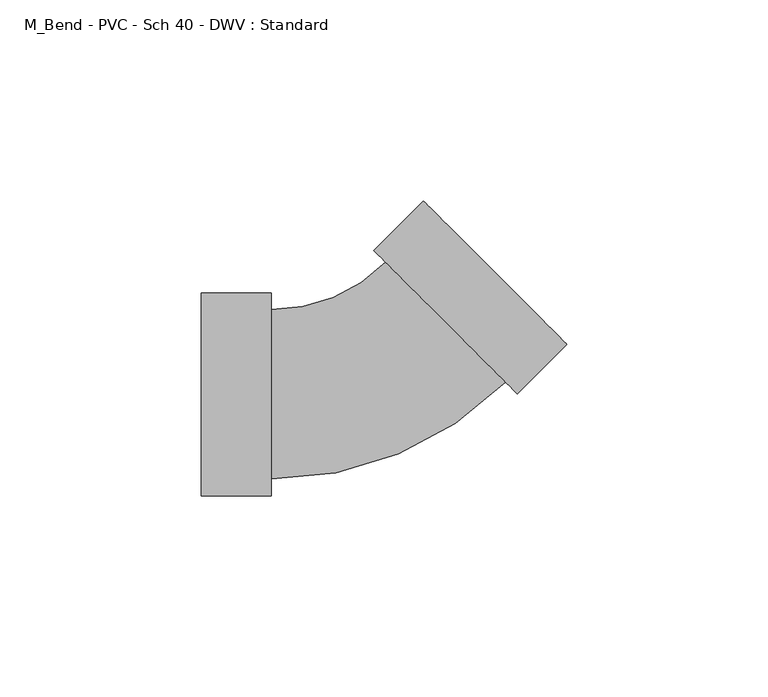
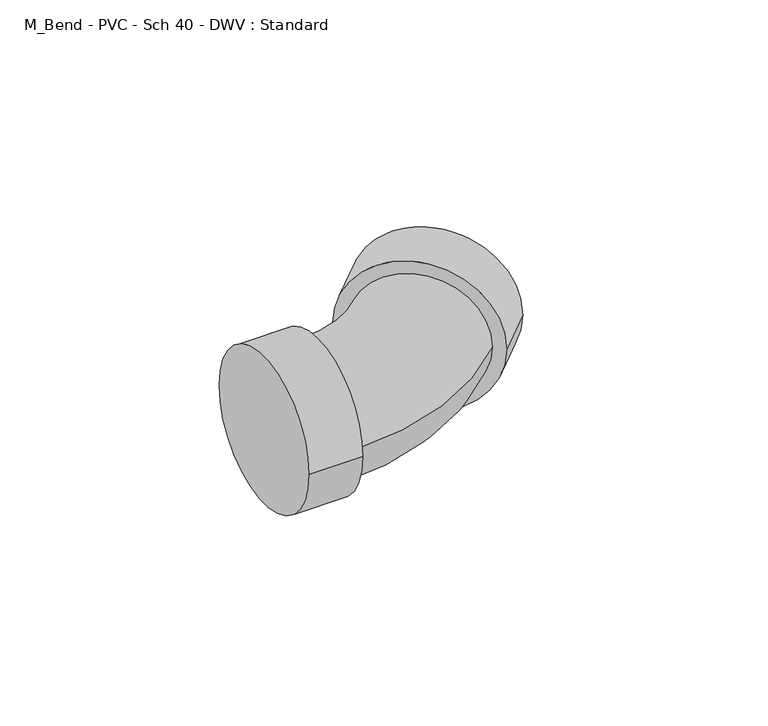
"""IFC4 building model written with IfcOpenShell, lengths in millimetres: pipe fitting geometry, M_Bend - PVC - Sch 40 - DWV : Standard."""

from ifc_helpers import new_model, si_unit, point, frame, origin, place, context, project, spatial, circle_curve, ellipse_curve, trimmed, source, transform, mapped, element, save
from ifc_brep_helpers import plane_surface, cylinder_surface, revolved_surface, advanced_brep


def m_bend_pvc_sch_40_dwv_standard_e3c94691(model_context):
    return source(origin(), model_context, "Body", "AdvancedBrep", [
        advanced_brep(
        [(-42.8498, -25.2349, 0.0), (-42.8498, 25.2349, 0.0), (-25.4, -25.2349, 0.0), (-25.4, 25.2349, 0.0), (-25.4, -21.082, 0.0), (-25.4, 21.082, 0.0), (3.0540594, 32.8676656, 0.0), (32.8678091, 3.0525147, 0.0), (35.8042839, 0.115902, 0.0), (0.1175847, 35.8042784, 0.0), (48.1434457, 12.4544839, 0.0), (12.4567465, 48.1428604, 0.0)],
        [
            (0, 1, circle_curve(frame((-42.8498, 0.0, 0.0), z_axis=(-1.0, 0.0, 0.0), x_axis=(0.0, 1.0, 0.0)), 25.2349)),
            (1, 0, circle_curve(frame((-42.8498, 0.0, 0.0), z_axis=(-1.0, 0.0, 0.0), x_axis=(0.0, 1.0, 0.0)), 25.2349)),
            (2, 3, circle_curve(frame((-25.4, 0.0, 0.0), z_axis=(1.0, 0.0, 0.0), x_axis=(0.0, 1.0, 0.0)), 25.2349)),
            (3, 2, circle_curve(frame((-25.4, 0.0, 0.0), z_axis=(1.0, 0.0, 0.0), x_axis=(0.0, 1.0, 0.0)), 25.2349)),
            (4, 5, circle_curve(frame((-25.4, 0.0, 0.0), z_axis=(-1.0, 0.0, 0.0), x_axis=(0.0, 1.0, 0.0)), 21.082)),
            (5, 4, circle_curve(frame((-25.4, 0.0, 0.0), z_axis=(-1.0, 0.0, 0.0), x_axis=(0.0, 1.0, 0.0)), 21.082)),
            (0, 2),
            (3, 1),
            (6, 5, circle_curve(frame((-25.4, 61.3230624, 0.0), z_axis=(0.0, 0.0, -1.0), x_axis=(0.0, -1.0, 0.0)), 40.2410624)),
            (4, 7, circle_curve(frame((-25.4, 61.3230624, 0.0), z_axis=(0.0, 0.0, 1.0), x_axis=(0.0, -1.0, 0.0)), 82.4050624)),
            (7, 6, circle_curve(frame((17.9609343, 17.9600902, 0.0), z_axis=(-0.7071233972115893, -0.707090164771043, 0.0), x_axis=(-0.707090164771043, 0.7071233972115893, 0.0)), 21.082)),
            (6, 7, circle_curve(frame((17.9609343, 17.9600902, 0.0), z_axis=(-0.7071233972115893, -0.707090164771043, 0.0), x_axis=(-0.707090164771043, 0.7071233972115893, 0.0)), 21.082)),
            (8, 9, circle_curve(frame((17.9609343, 17.9600902, 0.0), z_axis=(-0.7071233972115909, -0.7070901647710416, 0.0), x_axis=(-0.7070901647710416, 0.7071233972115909, 0.0)), 25.2349)),
            (9, 8, circle_curve(frame((17.9609343, 17.9600902, 0.0), z_axis=(-0.7071233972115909, -0.7070901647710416, 0.0), x_axis=(-0.7070901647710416, 0.7071233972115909, 0.0)), 25.2349)),
            (10, 11, circle_curve(frame((30.3000961, 30.2986721, 0.0), z_axis=(0.7071233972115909, 0.7070901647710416, 0.0), x_axis=(-0.7070901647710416, 0.7071233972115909, 0.0)), 25.2349)),
            (11, 10, circle_curve(frame((30.3000961, 30.2986721, 0.0), z_axis=(0.7071233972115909, 0.7070901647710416, 0.0), x_axis=(-0.7070901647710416, 0.7071233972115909, 0.0)), 25.2349)),
            (8, 10),
            (11, 9),
        ],
        [
            plane_surface(frame((-42.8498, 0.0, 0.0), z_axis=(-1.0, 0.0, 0.0), x_axis=(0.0, 0.0, 1.0))),
            plane_surface(frame((-25.4, 0.0, 0.0), z_axis=(1.0, 0.0, 0.0), x_axis=(0.0, 0.0, 1.0))),
            cylinder_surface(frame((-42.8498, 0.0, 0.0), z_axis=(-1.0, 0.0, 0.0), x_axis=(0.0, 1.0, 0.0)), 25.2349),
            revolved_surface(trimmed(ellipse_curve(frame((-25.4, 0.0, 0.0), z_axis=(-1.0, 0.0, 0.0), x_axis=(0.0, 1.0, 0.0)), 21.082, 21.082), [point((-25.4, -21.082, 0.0))], [point((-25.4, 21.082, 0.0))], True, "CARTESIAN"), (-25.4, 61.3230624, 0.0), (0.0, 0.0, 1.0)),
            revolved_surface(trimmed(ellipse_curve(frame((-25.4, 0.0, 0.0), z_axis=(-1.0, 0.0, 0.0), x_axis=(0.0, 1.0, 0.0)), 21.082, 21.082), [point((-25.4, 21.082, 0.0))], [point((-25.4, -21.082, 0.0))], True, "CARTESIAN"), (-25.4, 61.3230624, 0.0), (0.0, 0.0, 1.0)),
            plane_surface(frame((17.9609343, 17.9600902, 0.0), z_axis=(-0.7071233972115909, -0.7070901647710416, 0.0), x_axis=(0.0, 0.0, 1.0))),
            plane_surface(frame((30.3000961, 30.2986721, 0.0), z_axis=(0.7071233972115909, 0.7070901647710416, 0.0), x_axis=(0.0, 0.0, 1.0))),
            cylinder_surface(frame((17.9609343, 17.9600902, 0.0), z_axis=(-0.7071233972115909, -0.7070901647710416, 0.0), x_axis=(-0.7070901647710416, 0.7071233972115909, 0.0)), 25.2349),
        ],
        [
            (0, [[1, 2]]),
            (1, [[3, 4], [5, 6]]),
            (2, [[-1, 7, -4, 8]]),
            (2, [[-2, -8, -3, -7]]),
            (3, [[9, -5, 10, 11]]),
            (4, [[-9, 12, -10, -6]]),
            (5, [[13, 14], [-11, -12]]),
            (6, [[15, 16]]),
            (7, [[-13, 17, -16, 18]]),
            (7, [[-14, -18, -15, -17]]),
        ],
    ),
    ])


if __name__ == "__main__":
    model = new_model("IFC4")
    model_context = context("Model", 3, world=origin())
    ifc_project = project(units=[si_unit("LENGTHUNIT", "METRE", prefix="MILLI")], contexts=[model_context])
    site = spatial("IfcSite", under=ifc_project)
    building = spatial("IfcBuilding", under=site)
    placement = place(None, origin())
    m_bend_pvc_sch_40_dwv_standard_shape = m_bend_pvc_sch_40_dwv_standard_e3c94691(model_context)
    element("IfcPipeFitting", 1, ObjectType="M_Bend - PVC - Sch 40 - DWV : Standard", at=placement, inside=building, context=model_context, shape_type="MappedRepresentation", body=[
        mapped(m_bend_pvc_sch_40_dwv_standard_shape, transform((0.0, 0.0, 0.0), x_axis=(1.0, 0.0, 0.0), y_axis=(0.0, 1.0, 0.0), z_axis=(0.0, 0.0, 1.0))),
    ])
    save(model, "model.ifc")
